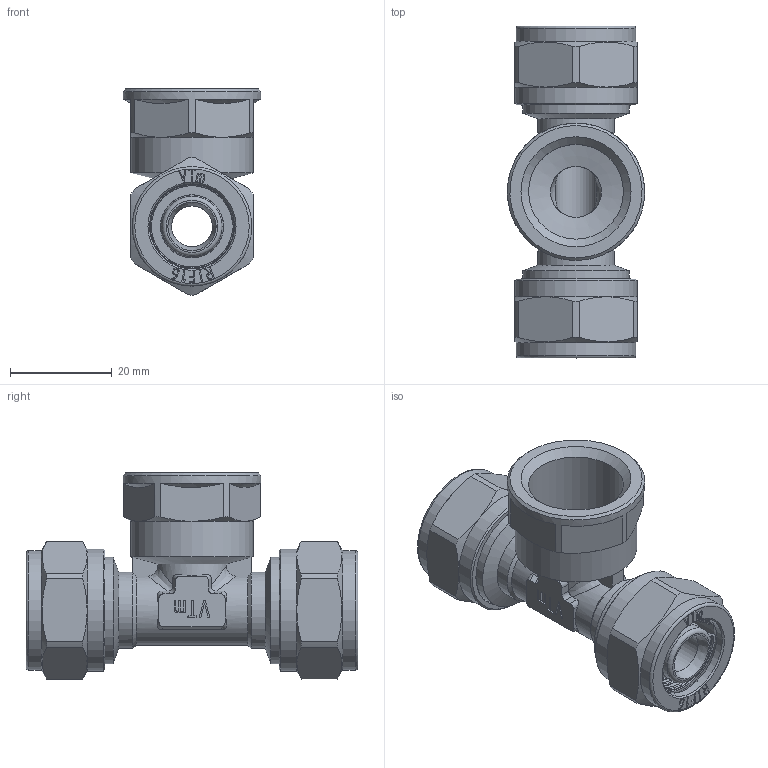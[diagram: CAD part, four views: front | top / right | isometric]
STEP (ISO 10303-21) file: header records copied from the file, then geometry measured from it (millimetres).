
FILE_DESCRIPTION(('STEP AP203'), '1');
FILE_NAME('VTm.332.N.160416', '', ('UNSPECIFIED'), ('UNSPECIFIED'), 'C3D Converter', 'C3D Toolkit', '');
FILE_SCHEMA(('CONFIG_CONTROL_DESIGN'));
Length unit declared in the file: millimetre
Products named in the file (1): ВР.302635.070.000 СБ
Bounding box: 27 x 65.21 x 40.5 mm (x, y, z)
Volume: 18257.9 mm3; surface area: 15780.7 mm2
Topology: 3 solids, 3 shells, 747 faces, 2034 edges, 1338 vertices
Faces by surface type: extrusion 300, plane 253, cylinder 80, cone 54, torus 54, bspline 4, sphere 2
Full cylindrical faces by diameter (mm): 8 x1, 10 x1, 11.8 x8, 12.4 x2, 15 x2, 16.2 x2, 16.7 x2, 18.632 x3, 20.955 x2, 23.5 x2, 24 x3, 27 x1
Entity records: 27769 total; most frequent: CARTESIAN_POINT 10686, ORIENTED_EDGE 3916, DIRECTION 2526, EDGE_CURVE 1958, VERTEX_POINT 1338, VECTOR 1176, B_SPLINE_CURVE_WITH_KNOTS 1089, LINE 876
